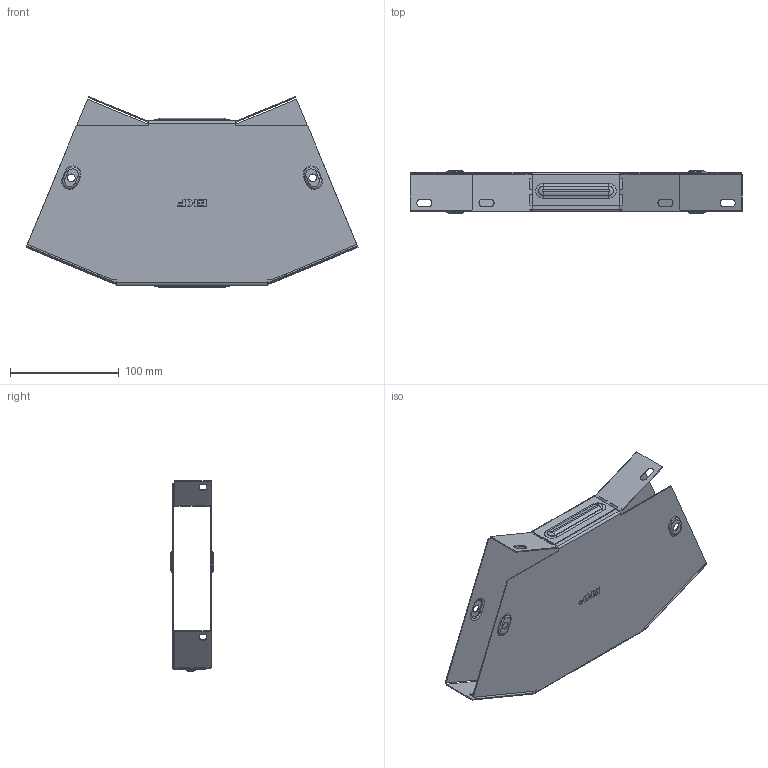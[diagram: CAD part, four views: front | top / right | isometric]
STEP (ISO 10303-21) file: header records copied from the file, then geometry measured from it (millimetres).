
FILE_DESCRIPTION (( 'STEP AP214' ), '1' );
FILE_NAME ('g4535150_捘.STEP', '2019-06-10T08:36:45', ( '砐錪賧瘔蠈錪 Windows' ), ( '' ), 'SwSTEP 2.0', 'SolidWorks 2018', '' );
FILE_SCHEMA (( 'AUTOMOTIVE_DESIGN' ));
Length unit declared in the file: millimetre
Products named in the file (1): g4535150_捘
Bounding box: 305.14 x 38.8 x 175.42 mm (x, y, z)
Volume: 78268.6 mm3; surface area: 197988.9 mm2
Topology: 2 solids, 2 shells, 468 faces, 1248 edges, 796 vertices
Faces by surface type: plane 258, cylinder 128, torus 64, bspline 18
Entity records: 15460 total; most frequent: CARTESIAN_POINT 3532, ORIENTED_EDGE 2496, DIRECTION 2466, EDGE_CURVE 1248, LINE 860, VECTOR 860, AXIS2_PLACEMENT_3D 803, VERTEX_POINT 796
